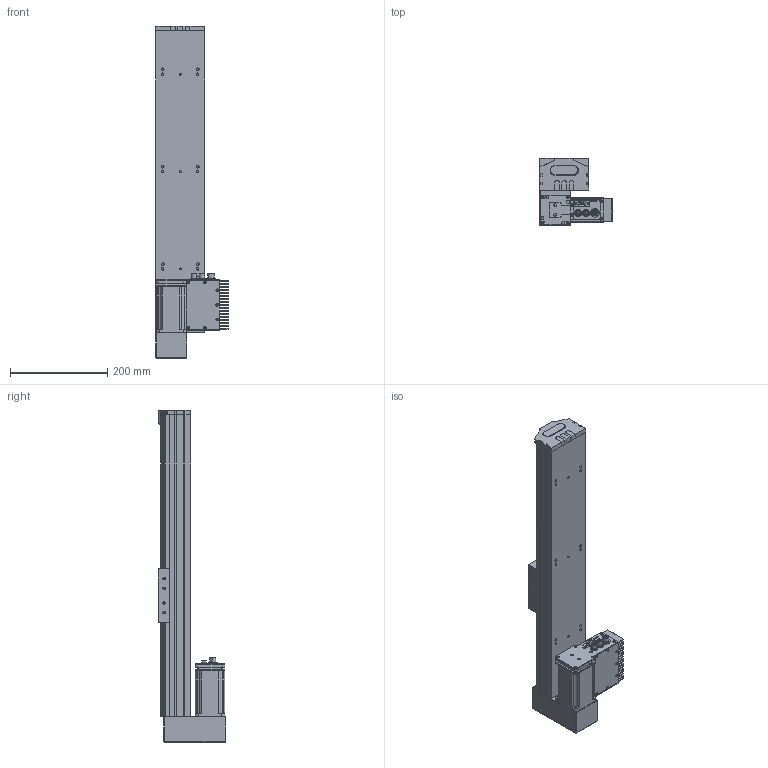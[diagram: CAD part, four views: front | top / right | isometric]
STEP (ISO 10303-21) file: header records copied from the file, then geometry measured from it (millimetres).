
FILE_DESCRIPTION (( 'STEP AP203' ), '1' );
FILE_NAME ('S 10 TSH BM S400.STEP', '2012-09-06T15:57:55', ( 'Conseil Régional Haute-Normandie' ), ( 'Conseil Régional Haute-Normandie' ), 'SwSTEP 2.0', 'SolidWorks 2010', '' );
FILE_SCHEMA (( 'CONFIG_CONTROL_DESIGN' ));
Length unit declared in the file: millimetre
Products named in the file (25): palette tbn2; Assem1_7; T_X2_00F4_X0_le contre le moteur_5; BU41 Carte Alimentation P05_3; Colonnette_3; BU45 Carte d''axe A11_5; Moteur 60BLDC90A_3; Couvercle_3; T_X2_00F4_X0_le fond_3; Connecteur rond D10 3cts_5; Connecteur rond D12 4cts_5; Sub D 9cts 90_X2_00B_X0__3; Radiateur profil_X2_00E9_X0_ 100x25_3; Colonnette ronde_3; T_X2_00F4_X0_le Arri_X2_00E8_X0_re_5; T_X2_00F4_X0_le lat_X2_00E9_X0_rale_5; Vis TF 3 torkx_1_1; Copie de renvoie LH2_Default; Vis TF 3 torkx; remplir_Default; S 10 TSH BM S400; Pièce2_Default; axe620_Default; piece_plastique remplieTSH_Default; embout_modifié
Assembly tree (55 placements, depth 3):
  S 10 TSH BM S400
    Assem1_7
      Connecteur rond D10 3cts_5  x2
      Connecteur rond D12 4cts_5
      Vis TF 3 torkx_1_1  x21
      BU41 Carte Alimentation P05_3
      BU45 Carte d''axe A11_5
      Moteur 60BLDC90A_3
      T_X2_00F4_X0_le lat_X2_00E9_X0_rale_5  x2
      Colonnette_3  x2
      Radiateur profil_X2_00E9_X0_ 100x25_3
      T_X2_00F4_X0_le Arri_X2_00E8_X0_re_5
      Sub D 9cts 90_X2_00B_X0__3
      T_X2_00F4_X0_le contre le moteur_5
      Couvercle_3
      T_X2_00F4_X0_le fond_3
      Colonnette ronde_3
    Vis TF 3 torkx  x7
    piece_plastique remplieTSH_Default
      embout_modifié
      Pièce2_Default
      remplir_Default  x3
    palette tbn2
    Copie de renvoie LH2_Default
    axe620_Default
Bounding box: 149.38 x 138.75 x 682 mm (x, y, z)
Volume: 3954081.2 mm3; surface area: 615545 mm2
Topology: 53 solids, 53 shells, 1961 faces, 4996 edges, 3250 vertices
Faces by surface type: plane 921, cylinder 869, cone 164, sphere 4, torus 3
Entity records: 38429 total; most frequent: CARTESIAN_POINT 6439, DIRECTION 6257, ORIENTED_EDGE 5684, EDGE_CURVE 2842, AXIS2_PLACEMENT_3D 2293, VERTEX_POINT 1862, VECTOR 1671, LINE 1671
